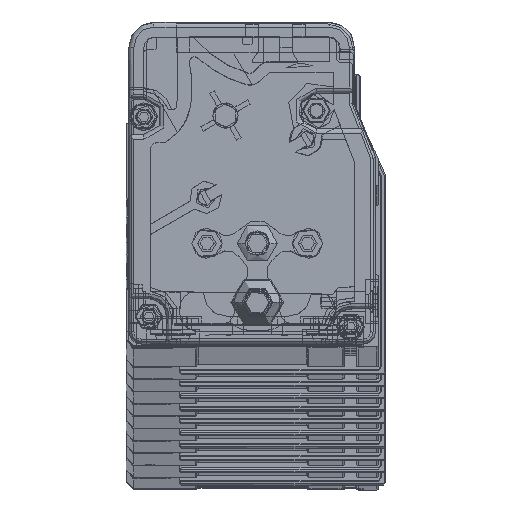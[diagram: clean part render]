
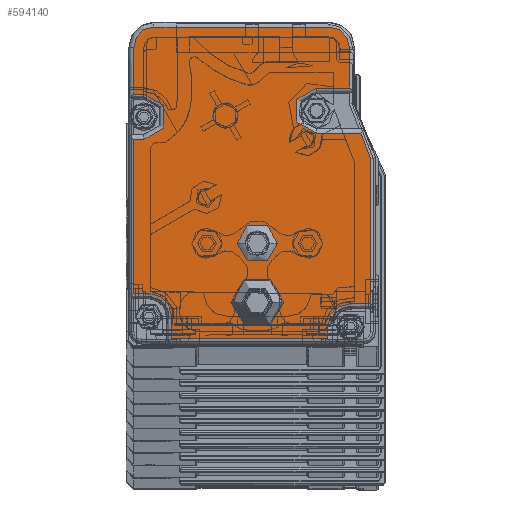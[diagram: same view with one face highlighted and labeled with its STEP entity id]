
A CAD part, top view. The second image highlights one B-rep face of the part: STEP entity #594140.
In plain terms, the highlighted planar face has unit normal (0, 0, 1).
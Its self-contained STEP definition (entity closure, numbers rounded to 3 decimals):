
#592030=CARTESIAN_POINT('',(-20.265,1.758,
4572.39));
#592040=DIRECTION('',(0.,0.,-1.));
#592050=DIRECTION('',(-1.,0.,0.));
#592060=AXIS2_PLACEMENT_3D('',#592030,#592040,#592050);
#592070=PLANE('',#592060);
#592080=CARTESIAN_POINT('',(-44.056,10.421,
4572.39));
#592090=DIRECTION('',(0.,0.,-1.));
#592100=DIRECTION('',(-1.,0.,0.));
#592110=AXIS2_PLACEMENT_3D('',#592080,#592090,#592100);
#592120=CIRCLE('',#592110,5.);
#592130=CARTESIAN_POINT('',(-49.056,10.421,
4572.39));
#592140=VERTEX_POINT('',#592130);
#592150=CARTESIAN_POINT('',(-39.056,10.421,
4572.39));
#592160=VERTEX_POINT('',#592150);
#592170=EDGE_CURVE('',#592140,#592160,#592120,.T.);
#592180=ORIENTED_EDGE('',*,*,#592170,.T.);
#592190=EDGE_CURVE('',#592160,#592140,#592120,.T.);
#592200=ORIENTED_EDGE('',*,*,#592190,.T.);
#592210=EDGE_LOOP('',(#592200,#592180));
#592220=FACE_BOUND('',#592210,.T.);
#592230=CARTESIAN_POINT('',(-44.059,22.124,
4572.39));
#592240=DIRECTION('',(0.,0.,1.));
#592250=DIRECTION('',(-1.,0.,0.));
#592260=AXIS2_PLACEMENT_3D('',#592230,#592240,#592250);
#592270=CIRCLE('',#592260,4.);
#592280=CARTESIAN_POINT('',(-40.059,22.124,
4572.39));
#592290=VERTEX_POINT('',#592280);
#592300=CARTESIAN_POINT('',(-48.059,22.124,
4572.39));
#592310=VERTEX_POINT('',#592300);
#592320=EDGE_CURVE('',#592290,#592310,#592270,.T.);
#592330=ORIENTED_EDGE('',*,*,#592320,.F.);
#592340=EDGE_CURVE('',#592310,#592290,#592270,.T.);
#592350=ORIENTED_EDGE('',*,*,#592340,.F.);
#592360=EDGE_LOOP('',(#592350,#592330));
#592370=FACE_BOUND('',#592360,.T.);
#592380=CARTESIAN_POINT('',(-61.059,2.124,
4572.39));
#592390=DIRECTION('',(0.,-1.,0.));
#592400=VECTOR('',#592390,1.);
#592410=LINE('',#592380,#592400);
#592420=CARTESIAN_POINT('',(-61.059,7.624,
4572.39));
#592430=VERTEX_POINT('',#592420);
#592440=CARTESIAN_POINT('',(-61.059,3.124,
4572.39));
#592450=VERTEX_POINT('',#592440);
#592460=EDGE_CURVE('',#592430,#592450,#592410,.T.);
#592470=ORIENTED_EDGE('',*,*,#592460,.T.);
#592480=CARTESIAN_POINT('',(-65.559,7.624,
4572.39));
#592490=DIRECTION('',(0.,0.,-1.));
#592500=DIRECTION('',(-1.,0.,0.));
#592510=AXIS2_PLACEMENT_3D('',#592480,#592490,#592500);
#592520=CIRCLE('',#592510,4.5);
#592530=CARTESIAN_POINT('',(-65.559,12.124,
4572.39));
#592540=VERTEX_POINT('',#592530);
#592550=EDGE_CURVE('',#592540,#592430,#592520,.T.);
#592560=ORIENTED_EDGE('',*,*,#592550,.T.);
#592570=CARTESIAN_POINT('',(-20.559,12.124,
4572.39));
#592580=DIRECTION('',(1.,0.,0.));
#592590=VECTOR('',#592580,1.);
#592600=LINE('',#592570,#592590);
#592610=CARTESIAN_POINT('',(-68.559,12.124,
4572.39));
#592620=VERTEX_POINT('',#592610);
#592630=EDGE_CURVE('',#592620,#592540,#592600,.T.);
#592640=ORIENTED_EDGE('',*,*,#592630,.T.);
#592650=CARTESIAN_POINT('',(-68.559,2.124,
4572.39));
#592660=DIRECTION('',(0.,-1.,0.));
#592670=VECTOR('',#592660,1.);
#592680=LINE('',#592650,#592670);
#592690=CARTESIAN_POINT('',(-68.559,42.727,
4572.39));
#592700=VERTEX_POINT('',#592690);
#592710=EDGE_CURVE('',#592700,#592620,#592680,.T.);
#592720=ORIENTED_EDGE('',*,*,#592710,.T.);
#592730=CARTESIAN_POINT('',(-20.559,42.727,
4572.39));
#592740=DIRECTION('',(-1.,0.,0.));
#592750=VECTOR('',#592740,1.);
#592760=LINE('',#592730,#592750);
#592770=CARTESIAN_POINT('',(-66.559,42.727,
4572.39));
#592780=VERTEX_POINT('',#592770);
#592790=EDGE_CURVE('',#592780,#592700,#592760,.T.);
#592800=ORIENTED_EDGE('',*,*,#592790,.T.);
#592810=CARTESIAN_POINT('',(-66.559,47.227,
4572.39));
#592820=DIRECTION('',(0.,0.,-1.));
#592830=DIRECTION('',(-1.,0.,0.));
#592840=AXIS2_PLACEMENT_3D('',#592810,#592820,#592830);
#592850=CIRCLE('',#592840,4.5);
#592860=CARTESIAN_POINT('',(-66.559,51.727,
4572.39));
#592870=VERTEX_POINT('',#592860);
#592880=EDGE_CURVE('',#592870,#592780,#592850,.T.);
#592890=ORIENTED_EDGE('',*,*,#592880,.T.);
#592900=CARTESIAN_POINT('',(-20.559,51.727,
4572.39));
#592910=DIRECTION('',(1.,0.,0.));
#592920=VECTOR('',#592910,1.);
#592930=LINE('',#592900,#592920);
#592940=CARTESIAN_POINT('',(-68.559,51.727,
4572.39));
#592950=VERTEX_POINT('',#592940);
#592960=EDGE_CURVE('',#592950,#592870,#592930,.T.);
#592970=ORIENTED_EDGE('',*,*,#592960,.T.);
#592980=CARTESIAN_POINT('',(-68.559,2.124,
4572.39));
#592990=DIRECTION('',(0.,-1.,0.));
#593000=VECTOR('',#592990,1.);
#593010=LINE('',#592980,#593000);
#593020=CARTESIAN_POINT('',(-68.559,61.024,
4572.39));
#593030=VERTEX_POINT('',#593020);
#593040=EDGE_CURVE('',#593030,#592950,#593010,.T.);
#593050=ORIENTED_EDGE('',*,*,#593040,.T.);
#593060=CARTESIAN_POINT('',(-64.559,61.024,
4572.39));
#593070=DIRECTION('',(0.,0.,1.));
#593080=DIRECTION('',(1.,0.,0.));
#593090=AXIS2_PLACEMENT_3D('',#593060,#593070,#593080);
#593100=CIRCLE('',#593090,4.);
#593110=CARTESIAN_POINT('',(-64.559,65.024,
4572.39));
#593120=VERTEX_POINT('',#593110);
#593130=EDGE_CURVE('',#593120,#593030,#593100,.T.);
#593140=ORIENTED_EDGE('',*,*,#593130,.T.);
#593150=CARTESIAN_POINT('',(-20.559,65.024,
4572.39));
#593160=DIRECTION('',(-1.,0.,0.));
#593170=VECTOR('',#593160,1.);
#593180=LINE('',#593150,#593170);
#593190=CARTESIAN_POINT('',(-29.759,65.024,
4572.39));
#593200=VERTEX_POINT('',#593190);
#593210=EDGE_CURVE('',#593200,#593120,#593180,.T.);
#593220=ORIENTED_EDGE('',*,*,#593210,.T.);
#593230=CARTESIAN_POINT('',(-29.759,61.024,
4572.39));
#593240=DIRECTION('',(0.,0.,1.));
#593250=DIRECTION('',(1.,0.,0.));
#593260=AXIS2_PLACEMENT_3D('',#593230,#593240,#593250);
#593270=CIRCLE('',#593260,4.);
#593280=CARTESIAN_POINT('',(-25.759,61.024,
4572.39));
#593290=VERTEX_POINT('',#593280);
#593300=EDGE_CURVE('',#593290,#593200,#593270,.T.);
#593310=ORIENTED_EDGE('',*,*,#593300,.T.);
#593320=CARTESIAN_POINT('',(-25.759,2.124,
4572.39));
#593330=DIRECTION('',(0.,1.,0.));
#593340=VECTOR('',#593330,1.);
#593350=LINE('',#593320,#593340);
#593360=CARTESIAN_POINT('',(-25.759,52.924,
4572.39));
#593370=VERTEX_POINT('',#593360);
#593380=EDGE_CURVE('',#593370,#593290,#593350,.T.);
#593390=ORIENTED_EDGE('',*,*,#593380,.T.);
#593400=CARTESIAN_POINT('',(-20.559,52.924,
4572.39));
#593410=DIRECTION('',(-1.,0.,0.));
#593420=VECTOR('',#593410,1.);
#593430=LINE('',#593400,#593420);
#593440=CARTESIAN_POINT('',(-32.309,52.924,
4572.39));
#593450=VERTEX_POINT('',#593440);
#593460=EDGE_CURVE('',#593370,#593450,#593430,.T.);
#593470=ORIENTED_EDGE('',*,*,#593460,.F.);
#593480=CARTESIAN_POINT('',(-32.309,48.424,
4572.39));
#593490=DIRECTION('',(0.,0.,-1.));
#593500=DIRECTION('',(-1.,0.,0.));
#593510=AXIS2_PLACEMENT_3D('',#593480,#593490,#593500);
#593520=CIRCLE('',#593510,4.5);
#593530=CARTESIAN_POINT('',(-32.309,43.924,
4572.39));
#593540=VERTEX_POINT('',#593530);
#593550=EDGE_CURVE('',#593540,#593450,#593520,.T.);
#593560=ORIENTED_EDGE('',*,*,#593550,.T.);
#593570=CARTESIAN_POINT('',(-20.559,43.924,
4572.39));
#593580=DIRECTION('',(-1.,0.,0.));
#593590=VECTOR('',#593580,1.);
#593600=LINE('',#593570,#593590);
#593610=CARTESIAN_POINT('',(-23.499,43.924,
4572.39));
#593620=VERTEX_POINT('',#593610);
#593630=EDGE_CURVE('',#593620,#593540,#593600,.T.);
#593640=ORIENTED_EDGE('',*,*,#593630,.T.);
#593650=CARTESIAN_POINT('',(-7.243,2.124,
4572.39));
#593660=DIRECTION('',(0.362,-0.932,0.));
#593670=VECTOR('',#593660,1.);
#593680=LINE('',#593650,#593670);
#593690=CARTESIAN_POINT('',(-21.559,38.937,
4572.39));
#593700=VERTEX_POINT('',#593690);
#593710=EDGE_CURVE('',#593620,#593700,#593680,.T.);
#593720=ORIENTED_EDGE('',*,*,#593710,.F.);
#593730=CARTESIAN_POINT('',(-21.559,2.124,
4572.39));
#593740=DIRECTION('',(0.,-1.,0.));
#593750=VECTOR('',#593740,1.);
#593760=LINE('',#593730,#593750);
#593770=CARTESIAN_POINT('',(-21.559,10.124,
4572.39));
#593780=VERTEX_POINT('',#593770);
#593790=EDGE_CURVE('',#593700,#593780,#593760,.T.);
#593800=ORIENTED_EDGE('',*,*,#593790,.F.);
#593810=CARTESIAN_POINT('',(-20.559,10.124,
4572.39));
#593820=DIRECTION('',(1.,0.,0.));
#593830=VECTOR('',#593820,1.);
#593840=LINE('',#593810,#593830);
#593850=CARTESIAN_POINT('',(-25.559,10.124,
4572.39));
#593860=VERTEX_POINT('',#593850);
#593870=EDGE_CURVE('',#593860,#593780,#593840,.T.);
#593880=ORIENTED_EDGE('',*,*,#593870,.T.);
#593890=CARTESIAN_POINT('',(-25.559,5.624,
4572.39));
#593900=DIRECTION('',(0.,0.,-1.));
#593910=DIRECTION('',(-1.,0.,0.));
#593920=AXIS2_PLACEMENT_3D('',#593890,#593900,#593910);
#593930=CIRCLE('',#593920,4.5);
#593940=CARTESIAN_POINT('',(-30.059,5.624,
4572.39));
#593950=VERTEX_POINT('',#593940);
#593960=EDGE_CURVE('',#593950,#593860,#593930,.T.);
#593970=ORIENTED_EDGE('',*,*,#593960,.T.);
#593980=CARTESIAN_POINT('',(-30.059,2.124,
4572.39));
#593990=DIRECTION('',(0.,1.,0.));
#594000=VECTOR('',#593990,1.);
#594010=LINE('',#593980,#594000);
#594020=CARTESIAN_POINT('',(-30.059,3.124,
4572.39));
#594030=VERTEX_POINT('',#594020);
#594040=EDGE_CURVE('',#594030,#593950,#594010,.T.);
#594050=ORIENTED_EDGE('',*,*,#594040,.T.);
#594060=CARTESIAN_POINT('',(-20.559,3.124,
4572.39));
#594070=DIRECTION('',(-1.,0.,0.));
#594080=VECTOR('',#594070,1.);
#594090=LINE('',#594060,#594080);
#594100=EDGE_CURVE('',#594030,#592450,#594090,.T.);
#594110=ORIENTED_EDGE('',*,*,#594100,.F.);
#594120=EDGE_LOOP('',(#594110,#594050,#593970,#593880,#593800,#593720,
#593640,#593560,#593470,#593390,#593310,#593220,#593140,#593050,#592970,
#592890,#592800,#592720,#592640,#592560,#592470));
#594130=FACE_OUTER_BOUND('',#594120,.T.);
#594140=ADVANCED_FACE('',(#592220,#592370,#594130),#592070,.F.);
